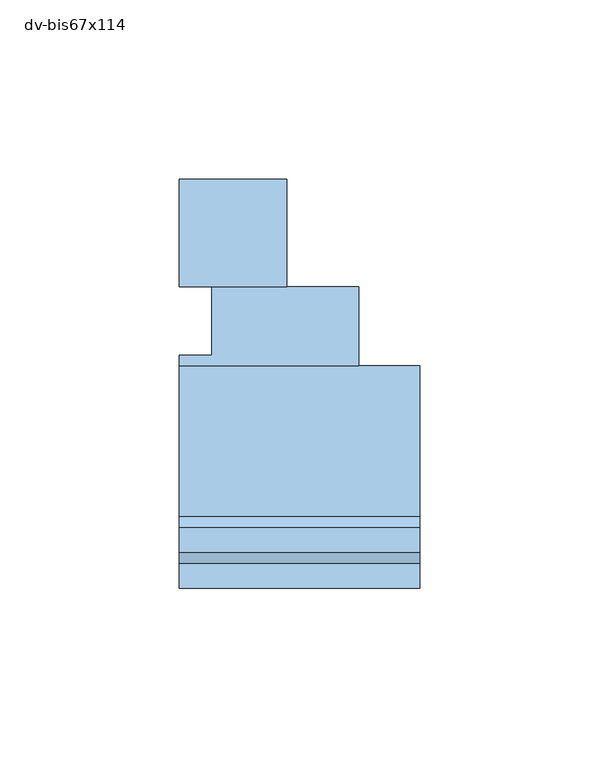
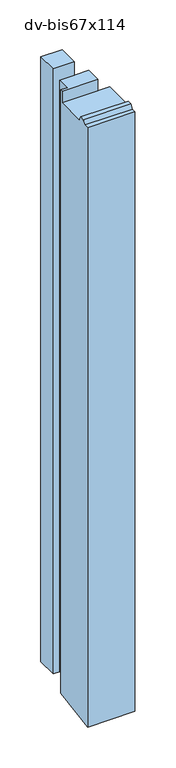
"""IFC4 building model written with IfcOpenShell, lengths in millimetres: window geometry, NLRS_30_WIN_zijstijl_sh_gen_TOBA-JM : dv-bis67x114."""

from ifc_helpers import new_model, si_unit, origin, place, context, project, spatial, faceted_brep, source, transform, mapped, element, save


def dv_bis67x114_6f5bf67f(model_context):
    return source(origin(), model_context, "Body", "Brep", [
        faceted_brep([(50.0, 84.0, 950.0), (50.0, 62.0, 950.0), (50.0, 62.0, 933.0), (50.0, 62.0, 49.2361111), (50.0, 72.0, 51.0), (50.0, 72.0, 67.0), (50.0, 84.0, 67.0), (67.0, 62.0, 933.0), (67.0, 62.0, 49.2361111), (67.0, 20.0, 933.0), (67.0, 17.0, 939.0), (67.0, 10.0, 939.0), (67.0, 7.0, 933.0), (67.0, 0.0, 933.0), (67.0, 0.0, 38.3), (0.0, 0.0, 933.0), (0.0, 0.0, 38.3), (0.0, 62.0, 950.0), (0.0, 65.0, 950.0), (0.0, 65.0, 49.7652778), (0.0, 7.0, 933.0), (0.0, 10.0, 939.0), (0.0, 17.0, 939.0), (0.0, 20.0, 933.0), (0.0, 62.0, 933.0), (9.0, 65.0, 950.0), (9.0, 65.0, 49.7652778), (9.0, 84.0, 950.0), (9.0, 84.0, 67.0), (9.0, 72.0, 67.0), (9.0, 72.0, 51.0), (30.0, 84.0, 950.0), (30.0, 84.0, 970.0), (0.0, 84.0, 970.0), (0.0, 84.0, 67.0), (0.0, 114.0, 970.0), (0.0, 114.0, 67.0), (30.0, 114.0, 970.0), (30.0, 114.0, 67.0), (30.0, 84.0, 67.0)], [[[0, 1, 2, 3, 4, 5, 6]], [[2, 7, 8, 3]], [[7, 9, 10, 11, 12, 13, 14, 8]], [[13, 15, 16, 14]], [[17, 18, 19, 16, 15, 20, 21, 22, 23, 24]], [[18, 25, 26, 19]], [[25, 27, 28, 29, 30, 26]], [[27, 31, 32, 33, 34, 28]], [[33, 35, 36, 34]], [[35, 37, 38, 36]], [[30, 4, 3, 8, 14, 16, 19, 26]], [[4, 30, 29, 5]], [[5, 29, 28, 34, 36, 38, 39, 6]], [[31, 0, 6, 39]], [[37, 32, 31, 39, 38]], [[35, 33, 32, 37]], [[17, 1, 0, 31, 27, 25, 18]], [[1, 17, 24, 2]], [[23, 9, 7, 2, 24]], [[9, 23, 22, 10]], [[10, 22, 21, 11]], [[11, 21, 20, 12]], [[12, 20, 15, 13]]]),
    ])


if __name__ == "__main__":
    model = new_model("IFC4")
    model_context = context("Model", 3, world=origin())
    ifc_project = project(units=[si_unit("LENGTHUNIT", "METRE", prefix="MILLI")], contexts=[model_context])
    site = spatial("IfcSite", under=ifc_project)
    building = spatial("IfcBuilding", under=site)
    placement = place(None, origin())
    dv_bis67x114_shape = dv_bis67x114_6f5bf67f(model_context)
    element("IfcWindow", 1, ObjectType="NLRS_30_WIN_zijstijl_sh_gen_TOBA-JM : dv-bis67x114", at=placement, inside=building, context=model_context, shape_type="MappedRepresentation", body=[
        mapped(dv_bis67x114_shape, transform((0.0, 0.0, 0.0), x_axis=(1.0, 0.0, 0.0), y_axis=(0.0, 1.0, 0.0), z_axis=(0.0, 0.0, 1.0))),
    ])
    save(model, "model.ifc")
